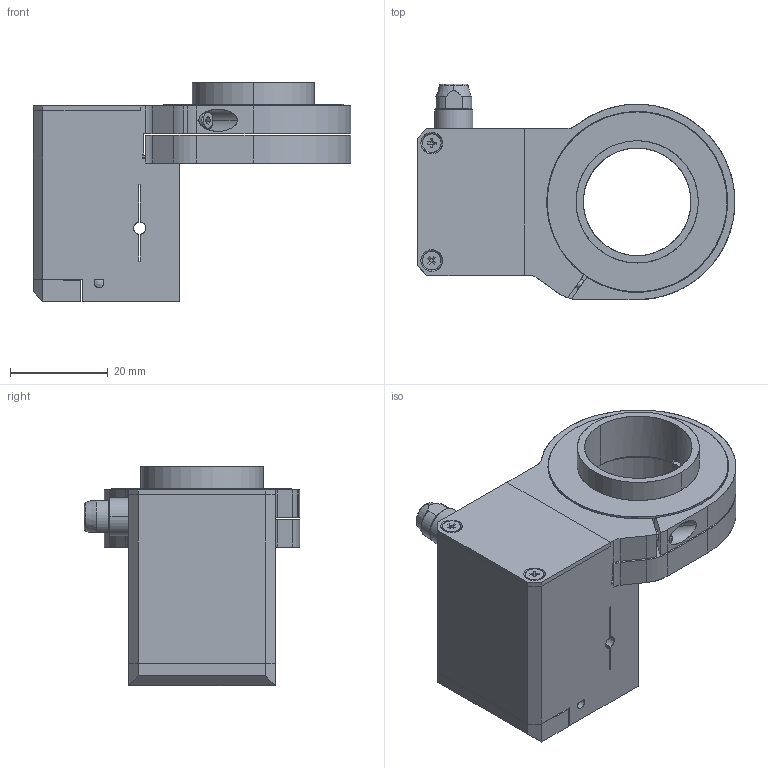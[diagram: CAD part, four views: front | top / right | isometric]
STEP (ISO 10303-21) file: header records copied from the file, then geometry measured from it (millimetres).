
FILE_DESCRIPTION (( 'STEP AP203' ), '1' );
FILE_NAME ('SFa-b00100_Objektivversteller 100µm.STEP', '2017-07-17T09:12:15', ( '' ), ( '' ), 'SwSTEP 2.0', 'SolidWorks 2017', '' );
FILE_SCHEMA (( 'CONFIG_CONTROL_DESIGN' ));
Length unit declared in the file: millimetre
Products named in the file (1): SFa-b00100_Objektivversteller 100痠
Bounding box: 65 x 44.14 x 44.81 mm (x, y, z)
Surface area: 17143 mm2 (no closed solid volume)
Topology: 0 solids, 235 shells, 238 faces, 1231 edges, 1222 vertices
Faces by surface type: plane 137, cylinder 65, cone 26, bspline 10
Entity records: 20180 total; most frequent: CARTESIAN_POINT 11082, DIRECTION 1654, ORIENTED_EDGE 1228, EDGE_CURVE 1225, VERTEX_POINT 1222, LINE 776, VECTOR 776, AXIS2_PLACEMENT_3D 439
